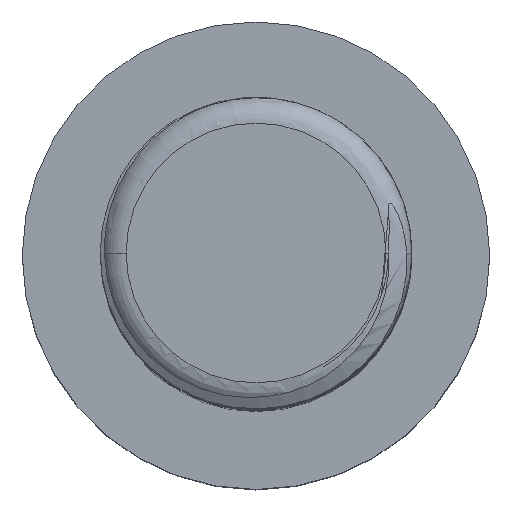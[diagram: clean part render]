
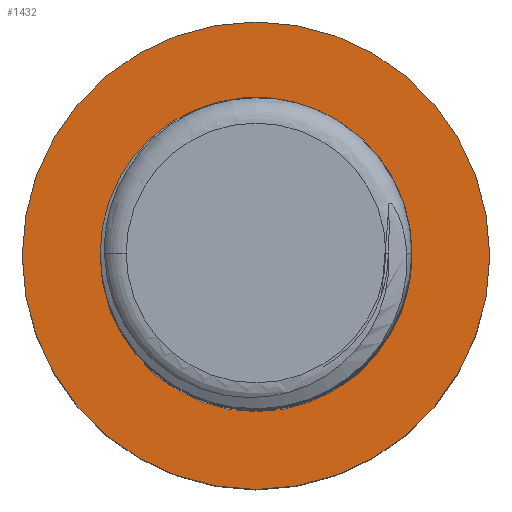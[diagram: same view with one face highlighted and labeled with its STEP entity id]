
A CAD part, top view. The second image highlights one B-rep face of the part: STEP entity #1432.
In plain terms, the highlighted planar face has unit normal (0, 0, 1).
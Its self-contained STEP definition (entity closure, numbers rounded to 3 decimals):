
#593 = CIRCLE ( 'NONE', #3405, 6. ) ;
#594 = CARTESIAN_POINT ( 'NONE',  ( 9., 0., 12. ) ) ;
#698 = AXIS2_PLACEMENT_3D ( 'NONE', #3213, #2650, #2092 ) ;
#728 = CARTESIAN_POINT ( 'NONE',  ( -9., 0., 12. ) ) ;
#799 = AXIS2_PLACEMENT_3D ( 'NONE', #819, #5117, #4574 ) ;
#807 = VERTEX_POINT ( 'NONE', #728 ) ;
#819 = CARTESIAN_POINT ( 'NONE',  ( 0., 0., 12. ) ) ;
#1047 = EDGE_CURVE ( 'NONE', #3552, #807, #4051, .T. ) ;
#1099 = EDGE_LOOP ( 'NONE', ( #4463, #1496 ) ) ;
#1212 = CARTESIAN_POINT ( 'NONE',  ( 6., 0., 12. ) ) ;
#1345 = CIRCLE ( 'NONE', #1747, 6. ) ;
#1432 = ADVANCED_FACE ( 'NONE', ( #3952, #4018 ), #3301, .T. ) ;
#1496 = ORIENTED_EDGE ( 'NONE', *, *, #4328, .F. ) ;
#1626 = DIRECTION ( 'NONE',  ( 1., 0., 0. ) ) ;
#1741 = DIRECTION ( 'NONE',  ( 1., 0., 0. ) ) ;
#1747 = AXIS2_PLACEMENT_3D ( 'NONE', #3965, #2298, #1741 ) ;
#1768 = CARTESIAN_POINT ( 'NONE',  ( -6., 0., 12. ) ) ;
#2092 = DIRECTION ( 'NONE',  ( 1., 0., 0. ) ) ;
#2183 = DIRECTION ( 'NONE',  ( 0., 0., 1. ) ) ;
#2209 = ORIENTED_EDGE ( 'NONE', *, *, #3511, .T. ) ;
#2298 = DIRECTION ( 'NONE',  ( 0., 0., 1. ) ) ;
#2650 = DIRECTION ( 'NONE',  ( 0., 0., 1. ) ) ;
#2746 = CARTESIAN_POINT ( 'NONE',  ( 0., 0., 12. ) ) ;
#3131 = CIRCLE ( 'NONE', #698, 9. ) ;
#3213 = CARTESIAN_POINT ( 'NONE',  ( 0., 0., 12. ) ) ;
#3301 = PLANE ( 'NONE',  #4053 ) ;
#3405 = AXIS2_PLACEMENT_3D ( 'NONE', #4588, #4029, #3476 ) ;
#3430 = VERTEX_POINT ( 'NONE', #1768 ) ;
#3459 = VERTEX_POINT ( 'NONE', #1212 ) ;
#3476 = DIRECTION ( 'NONE',  ( 1., 0., 0. ) ) ;
#3511 = EDGE_CURVE ( 'NONE', #807, #3552, #3131, .T. ) ;
#3512 = EDGE_LOOP ( 'NONE', ( #2209, #5297 ) ) ;
#3552 = VERTEX_POINT ( 'NONE', #594 ) ;
#3952 = FACE_OUTER_BOUND ( 'NONE', #3512, .T. ) ;
#3965 = CARTESIAN_POINT ( 'NONE',  ( 0., 0., 12. ) ) ;
#4018 = FACE_BOUND ( 'NONE', #1099, .T. ) ;
#4029 = DIRECTION ( 'NONE',  ( 0., 0., 1. ) ) ;
#4051 = CIRCLE ( 'NONE', #799, 9. ) ;
#4053 = AXIS2_PLACEMENT_3D ( 'NONE', #2746, #2183, #1626 ) ;
#4328 = EDGE_CURVE ( 'NONE', #3459, #3430, #593, .T. ) ;
#4463 = ORIENTED_EDGE ( 'NONE', *, *, #4649, .F. ) ;
#4574 = DIRECTION ( 'NONE',  ( 1., 0., 0. ) ) ;
#4588 = CARTESIAN_POINT ( 'NONE',  ( 0., 0., 12. ) ) ;
#4649 = EDGE_CURVE ( 'NONE', #3430, #3459, #1345, .T. ) ;
#5117 = DIRECTION ( 'NONE',  ( 0., 0., 1. ) ) ;
#5297 = ORIENTED_EDGE ( 'NONE', *, *, #1047, .T. ) ;
